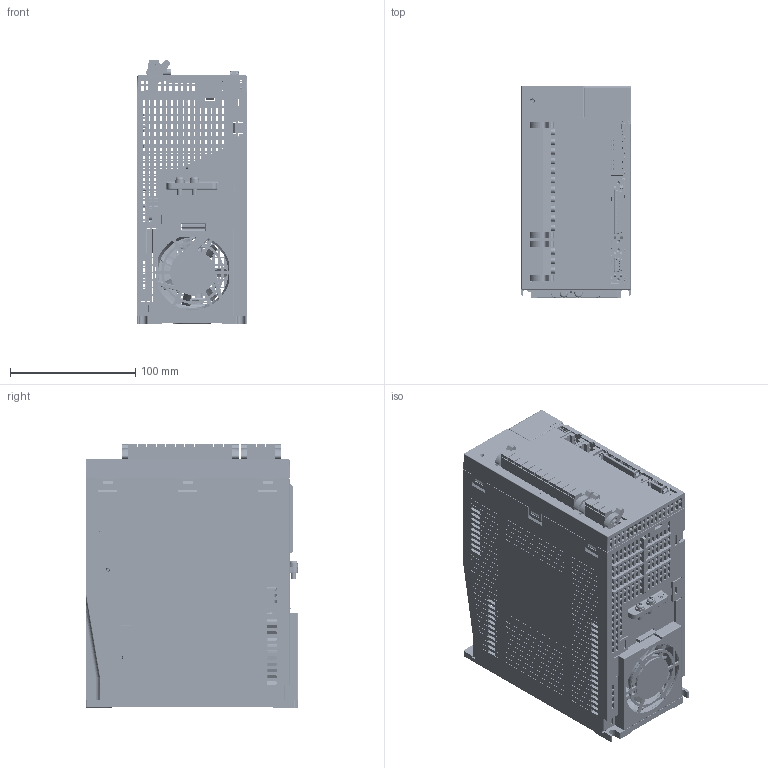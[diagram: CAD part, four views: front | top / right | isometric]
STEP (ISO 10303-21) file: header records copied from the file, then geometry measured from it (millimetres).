
FILE_DESCRIPTION(/* description */ (''),/* implementation_level */ '2;1');
FILE_NAME(/* name */ '\\EMN0D5F01\rp_inventor\RP Mechanical Design\P Series Files\P Series Step from ipt files\PD-35P.stp',/* time_stamp */ '2015-06-05T16:52:01-07:00',/* author */ ('jb17719'),/* organization */ (''),/* preprocessor_version */ 'ST-DEVELOPER v15.2',/* originating_system */ 'Autodesk Inventor 2014',/* authorisation */ '');
FILE_SCHEMA (('AUTOMOTIVE_DESIGN { 1 0 10303 214 3 1 1 }'));
Products named in the file (1): PD-35P.STEP
Bounding box: 88.01 x 169.4 x 210.24 mm (x, y, z)
Volume: 577024.7 mm3; surface area: 462946.3 mm2
Topology: 47 solids, 47 shells, 13902 faces, 38915 edges, 25451 vertices
Faces by surface type: plane 10656, cylinder 1899, bspline 968, torus 193, sphere 99, cone 87
Full cylindrical faces by diameter (mm): 0.45 x13, 0.7 x5, 0.8 x2, 1.5 x2, 1.8 x2, 2 x4, 2.3 x2, 2.5 x8, 2.6 x2, 3 x8, 3.5 x3, 3.7 x14, 3.8 x22, 4 x2, 4.3 x4, 4.5 x2, 4.75 x1, 5 x1, 5.5 x1, 6 x1, 6.6 x2, 7.8 x2, 8 x2, 9.75 x1, 32.46 x1, 35 x1, 56.19 x1
Entity records: 497820 total; most frequent: CARTESIAN_POINT 141539, ORIENTED_EDGE 77202, DIRECTION 66619, EDGE_CURVE 38601, LINE 31955, VECTOR 31955, VERTEX_POINT 25418, AXIS2_PLACEMENT_3D 17332
